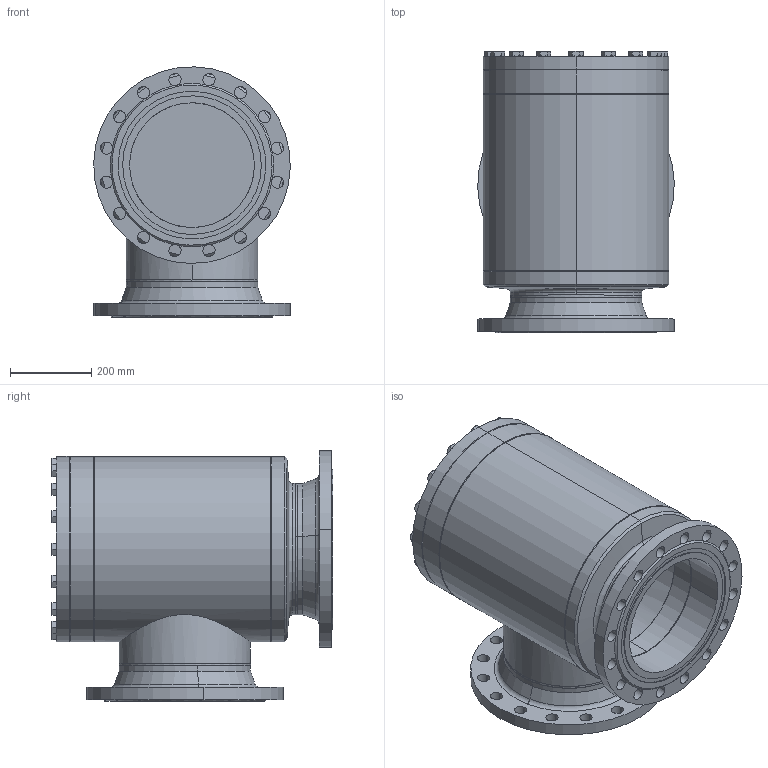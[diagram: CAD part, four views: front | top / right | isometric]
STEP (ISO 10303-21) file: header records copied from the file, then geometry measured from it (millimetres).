
FILE_DESCRIPTION (( 'STEP AP214' ), '1' );
FILE_NAME ('SS52420C25-DN300_DIN-FL-N_PS25.STEP', '2006-05-02T05:53:37', ( 'Herr Grams' ), ( 'AWP GmbH' ), 'SwSTEP 2.0', 'SolidWorks 2002296', '' );
FILE_SCHEMA (( 'AUTOMOTIVE_DESIGN' ));
Length unit declared in the file: millimetre
Products named in the file (14): SS52420C25-DN300_DIN-FL-N_PS25; Gehäuse-kpl26420-DN300_DIN_PS25_Standard; Gehäuse26300-DN300_Standard; Kopfstück26300-DN300_Standard; Boden26300-DN300_Standard; Rohrstutzen-A26300-DN300_R1_Standard; Flansch-DIN2634-Nut_PS25_DIN-Flansch-DN300_PS25-Nut; bead-DN300-1_Standard; bead-DN300-4_Standard; bead-DN300-3_Standard; bead-DN300-2_Standard; SS52300B25_Deck+Schr-DN300_Standard; Deckel52300B25-DN300_Standard; Sechskantschraube-DIN933_M20x 60
Assembly tree (29 placements, depth 3):
  SS52420C25-DN300_DIN-FL-N_PS25
    Gehäuse-kpl26420-DN300_DIN_PS25_Standard
      Flansch-DIN2634-Nut_PS25_DIN-Flansch-DN300_PS25-Nut  x2
      Kopfstück26300-DN300_Standard
      Gehäuse26300-DN300_Standard
      bead-DN300-4_Standard
      bead-DN300-3_Standard
      bead-DN300-1_Standard
      Rohrstutzen-A26300-DN300_R1_Standard
      bead-DN300-2_Standard
      Boden26300-DN300_Standard
    SS52300B25_Deck+Schr-DN300_Standard
      Sechskantschraube-DIN933_M20x 60  x16
      Deckel52300B25-DN300_Standard
Bounding box: 484.88 x 694.5 x 617.44 mm (x, y, z)
Volume: 33105639.4 mm3; surface area: 3654311.5 mm2
Topology: 27 solids, 27 shells, 619 faces, 1468 edges, 894 vertices
Faces by surface type: cone 246, cylinder 177, plane 174, bspline 16, torus 6
Entity records: 10856 total; most frequent: CARTESIAN_POINT 5216, DIRECTION 1058, ORIENTED_EDGE 996, EDGE_CURVE 498, AXIS2_PLACEMENT_3D 464, VERTEX_POINT 320, EDGE_LOOP 260, CIRCLE 258
